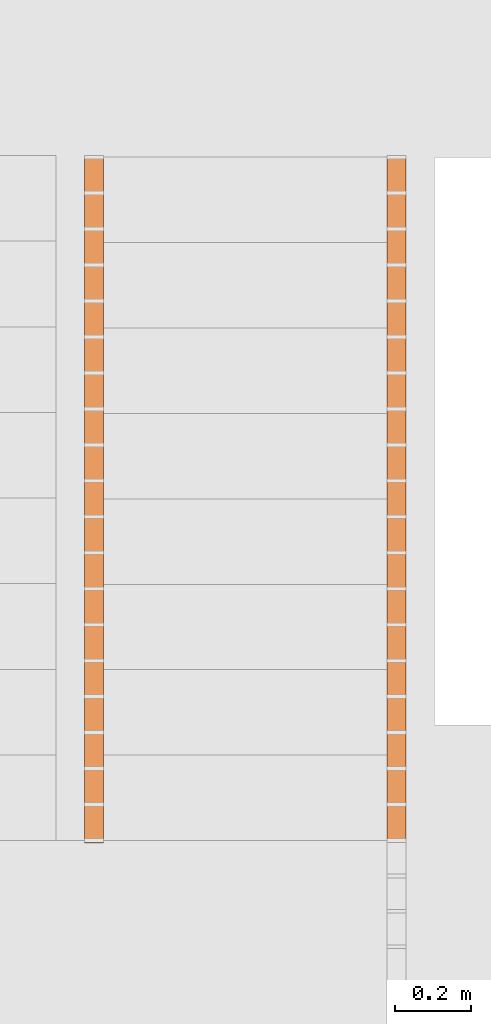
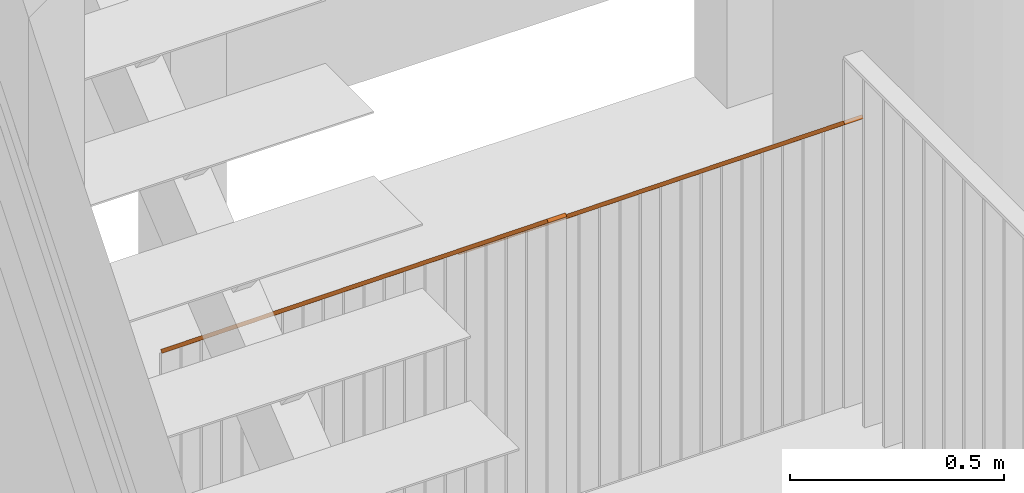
# One storey, part 61 of 112: 2 proxies, 2 elements without a shape of their own.
"""IFC2X3 building model written with IfcOpenShell, lengths in millimetres."""

from ifc_helpers import new_model, entity, si_unit, converted_unit, derived_unit, money_unit, direction, frame, origin_with_axes, place, context, subcontext, project, spatial, faceted_brep, source, transform, mapped, material, type_object, element, aggregate, save


model = new_model("IFC2X3")

# Units and contexts
model_context = context("Model", 3, precision=0.01, world=origin_with_axes(), true_north=direction((0.0, 1.0)))
body_context = subcontext(model_context, "Body", "Model", "MODEL_VIEW")
ifc_project = project(units=[si_unit("LENGTHUNIT", "METRE", prefix="MILLI"), si_unit("AREAUNIT", "SQUARE_METRE"), si_unit("VOLUMEUNIT", "CUBIC_METRE"), converted_unit("PLANEANGLEUNIT", "DEGREE", entity("IfcPlaneAngleMeasure", 0.0174532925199), si_unit("PLANEANGLEUNIT", "RADIAN"), dimensions=[0, 0, 0, 0, 0, 0, 0]), si_unit("SOLIDANGLEUNIT", "STERADIAN"), money_unit("EUR"), converted_unit("TIMEUNIT", "Year", entity("IfcTimeMeasure", 31556926.0), si_unit("TIMEUNIT", "SECOND"), dimensions=[0, 0, 1, 0, 0, 0, 0]), si_unit("MASSUNIT", "GRAM", prefix="KILO"), si_unit("THERMODYNAMICTEMPERATUREUNIT", "DEGREE_CELSIUS"), si_unit("LUMINOUSINTENSITYUNIT", "LUMEN"), si_unit("ENERGYUNIT", "JOULE", prefix="MEGA"), derived_unit("THERMALCONDUCTANCEUNIT", [(si_unit("POWERUNIT", "WATT"), 1), (si_unit("LENGTHUNIT", "METRE"), -1), (si_unit("THERMODYNAMICTEMPERATUREUNIT", "KELVIN"), -1)]), derived_unit("SPECIFICHEATCAPACITYUNIT", [(si_unit("ENERGYUNIT", "JOULE"), 1), (si_unit("MASSUNIT", "GRAM", prefix="KILO"), -1), (si_unit("THERMODYNAMICTEMPERATUREUNIT", "KELVIN"), -1)]), derived_unit("MASSDENSITYUNIT", [(si_unit("MASSUNIT", "GRAM", prefix="KILO"), 1), (si_unit("VOLUMEUNIT", "CUBIC_METRE"), -1)])], contexts=[model_context])

# Site, building, storey
site_placement = place(None, origin_with_axes())
site = spatial("IfcSite", under=ifc_project, at=site_placement, Name="Politse- ja Piirivalveameti ning Päästeameti ühishoone", CompositionType="ELEMENT")
building_placement = place(site_placement, origin_with_axes())
building = spatial("IfcBuilding", under=site, at=building_placement, Name="Politse- ja Piirivalveameti ning Päästeameti ühishoone", CompositionType="ELEMENT")
storey_placement = place(building_placement, origin_with_axes())
storey = spatial("IfcBuildingStorey", under=building, at=storey_placement, Name="Esimene korrus", CompositionType="ELEMENT", Elevation=0.0)

# Railing, proxy
railing_type = type_object("IfcRailingType", Name="Railing Type", PredefinedType="NOTDEFINED")
railing_1_placement = place(storey_placement, frame((-13032.0653854, 2843.99975677, 0.0), z_axis=(0.0, 0.0, 1.0), x_axis=(-1.0, 0.0, 0.0)))
railing_1 = element("IfcRailing", 1, at=railing_1_placement, inside=storey, type_object=railing_type, Name="PIIRE 2", PredefinedType="NOTDEFINED")
ifc_material = material(Name="Teras - Konstruktsioon")
building_element_proxy_type = type_object("IfcBuildingElementProxyType", Name="IfcBuildingElementProxy", PredefinedType="NOTDEFINED")
shared_shape = source(origin_with_axes(), body_context, "Body", "Brep", [
    faceted_brep([(-25.0, 0.0, 1000.0), (-25.0, -6.30586595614, 992.23881101), (-25.0, -1811.46272545, 2458.90547768), (-25.0, -1805.15685949, 2466.66666667), (25.0, 0.0, 1000.0), (25.0, -6.30586595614, 992.23881101), (25.0, -1811.46272545, 2458.90547768), (25.0, -1805.15685949, 2466.66666667)], [[[0, 1, 2, 3]], [[0, 4, 5, 1]], [[1, 5, 6, 2]], [[3, 2, 6, 7]], [[4, 0, 3, 7]], [[5, 4, 7, 6]]]),
])
proxy_1_placement = place(railing_1_placement, frame((-25.0, 745.92132702, 973.074175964), z_axis=(0.0, 0.0, 1.0), x_axis=(-1.0, 0.0, 0.0)))
proxy_1 = element("IfcBuildingElementProxy", 2, at=proxy_1_placement, type_object=building_element_proxy_type, material=ifc_material, Name="Piirde Ülaosa - 001", context=body_context, shape_type="MappedRepresentation", body=[
    mapped(shared_shape, transform((0.0, 902.578429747, -973.074175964))),
])
aggregate(railing_1, [proxy_1])

railing_2_placement = place(storey_placement, frame((-12182.0653854, 2843.99975677, 0.0), z_axis=(0.0, 0.0, 1.0), x_axis=(1.0, 0.0, 0.0)))
railing_2 = element("IfcRailing", 3, at=railing_2_placement, inside=storey, type_object=railing_type, Name="PIIRE 2", PredefinedType="NOTDEFINED")
proxy_2_placement = place(railing_2_placement, frame((-25.0, -745.92132702, 973.074175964), z_axis=(0.0, 0.0, 1.0), x_axis=(1.0, 0.0, 0.0)))
proxy_2 = element("IfcBuildingElementProxy", 4, at=proxy_2_placement, type_object=building_element_proxy_type, material=ifc_material, Name="Piirde Ülaosa - 001", context=body_context, shape_type="MappedRepresentation", body=[
    mapped(shared_shape, transform((0.0, 902.578429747, -973.074175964))),
])
aggregate(railing_2, [proxy_2])

save(model, "model.ifc")
